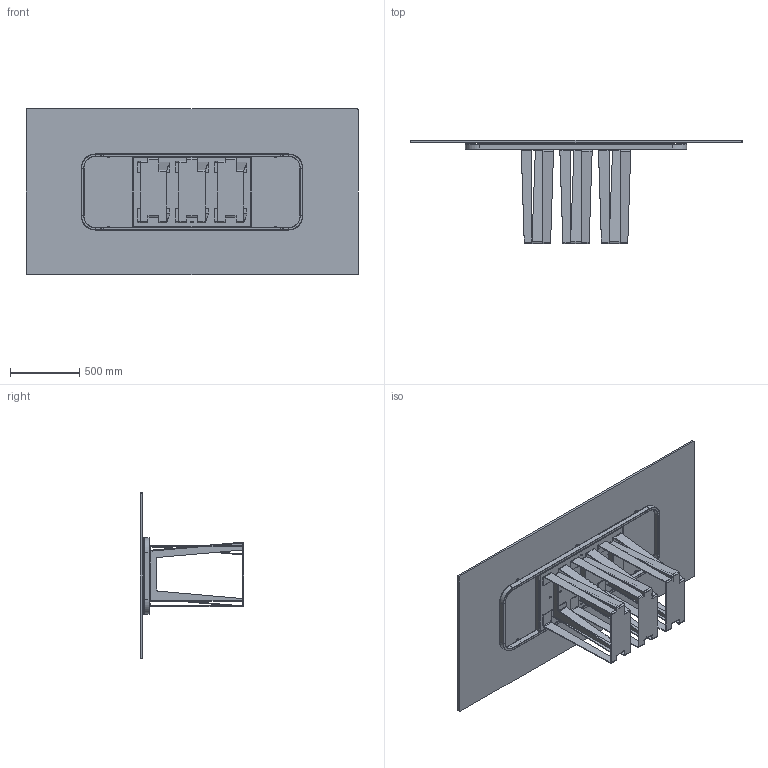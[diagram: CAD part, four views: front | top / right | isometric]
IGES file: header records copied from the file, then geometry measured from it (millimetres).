
Start section: SolidWorks IGES file using analytic representation for surfaces
Global section: file name: Y:\eforma\TECNICO\SOLIDWORKS\E-FORMA\1-TAVOLI\NARCISO\02 parts\NA23G.IGS; native system: SolidWorks 2022; preprocessor: SolidWorks 2022; author: eforma.tech; date: 240807.163759; units: millimetre
Bounding box: 2400 x 745 x 1200 mm (x, y, z)
Volume: 54810087.4 mm3; surface area: 10782003 mm2
Topology: 34 solids, 34 shells, 1015 faces, 2467 edges, 1514 vertices
Faces by surface type: plane 549, revolution 430, bspline 36
